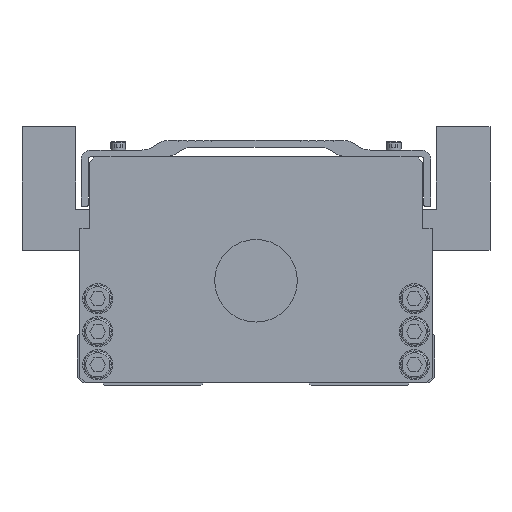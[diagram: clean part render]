
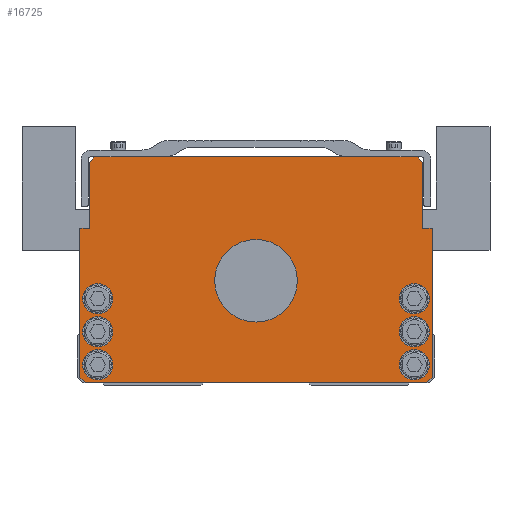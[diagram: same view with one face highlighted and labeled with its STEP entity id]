
A CAD part, front view. The second image highlights one B-rep face of the part: STEP entity #16725.
In plain terms, the highlighted planar face has unit normal (0, -1, 0).
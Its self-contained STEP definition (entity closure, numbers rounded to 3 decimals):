
#7047=VERTEX_POINT('',#20100);
#7113=EDGE_CURVE('',#14135,#14321,#20175,.T.);
#7227=VERTEX_POINT('',#20308);
#7387=EDGE_CURVE('',#8155,#14135,#20484,.T.);
#7409=VERTEX_POINT('',#20507);
#7661=EDGE_CURVE('',#15755,#14817,#20795,.T.);
#7965=EDGE_CURVE('',#9465,#8405,#21138,.T.);
#8155=VERTEX_POINT('',#21352);
#8405=VERTEX_POINT('',#21627);
#8477=VERTEX_POINT('',#21713);
#8529=VERTEX_POINT('',#21773);
#9149=EDGE_CURVE('',#16839,#15673,#22453,.T.);
#9301=EDGE_CURVE('',#9311,#16839,#22623,.T.);
#9311=VERTEX_POINT('',#22633);
#9421=VERTEX_POINT('',#22753);
#9465=VERTEX_POINT('',#22811);
#10401=EDGE_CURVE('',#18663,#15249,#23844,.T.);
#10845=EDGE_CURVE('',#8477,#7227,#24327,.T.);
#11187=EDGE_CURVE('',#12975,#8529,#24710,.T.);
#11321=VERTEX_POINT('',#24857);
#11707=VERTEX_POINT('',#25287);
#12185=EDGE_CURVE('',#14817,#15755,#25828,.T.);
#12597=VERTEX_POINT('',#26280);
#12975=VERTEX_POINT('',#26702);
#13169=EDGE_CURVE('',#15249,#18663,#26921,.T.);
#13711=EDGE_CURVE('',#7227,#8477,#27516,.T.);
#13857=EDGE_CURVE('',#18313,#12975,#27677,.T.);
#13911=EDGE_CURVE('',#11707,#9311,#27741,.T.);
#14115=EDGE_CURVE('',#7409,#12597,#27981,.T.);
#14135=VERTEX_POINT('',#28005);
#14213=EDGE_CURVE('',#18535,#18313,#28090,.T.);
#14321=VERTEX_POINT('',#28208);
#14587=VERTEX_POINT('',#28503);
#14817=VERTEX_POINT('',#28754);
#15215=EDGE_CURVE('',#12597,#7409,#29210,.T.);
#15249=VERTEX_POINT('',#29246);
#15371=EDGE_CURVE('',#17417,#18179,#29376,.T.);
#15673=VERTEX_POINT('',#29706);
#15755=VERTEX_POINT('',#29795);
#15933=EDGE_CURVE('',#8405,#9465,#29987,.T.);
#16025=EDGE_CURVE('',#14321,#11707,#30094,.T.);
#16067=EDGE_CURVE('',#15673,#18535,#30140,.T.);
#16121=EDGE_CURVE('',#14587,#8155,#30196,.T.);
#16649=EDGE_CURVE('',#7047,#17175,#30784,.T.);
#16725=ADVANCED_FACE('',(#30865,#30866,#30867,#30868,#30869,#30870,#30871,#30872),#30873,.T.);
#16839=VERTEX_POINT('',#30997);
#17175=VERTEX_POINT('',#31368);
#17393=EDGE_CURVE('',#18179,#17417,#31621,.T.);
#17417=VERTEX_POINT('',#31647);
#18061=EDGE_CURVE('',#11321,#9421,#32359,.T.);
#18179=VERTEX_POINT('',#32493);
#18313=VERTEX_POINT('',#32644);
#18533=EDGE_CURVE('',#17175,#14587,#32893,.T.);
#18535=VERTEX_POINT('',#32895);
#18613=EDGE_CURVE('',#8529,#7047,#32977,.T.);
#18663=VERTEX_POINT('',#33032);
#18737=EDGE_CURVE('',#9421,#11321,#33110,.T.);
#20100=CARTESIAN_POINT('',(-58.5,0.0,83.0));
#20175=LINE('',#34898,#34899);
#20308=CARTESIAN_POINT('',(52.0,0.0,31.5));
#20484=LINE('',#35318,#35319);
#20507=CARTESIAN_POINT('',(52.0,0.0,7.5));
#20795=CIRCLE('',#35739,5.5);
#21138=CIRCLE('',#36222,5.5);
#21352=CARTESIAN_POINT('',(58.5,0.0,83.0));
#21627=CARTESIAN_POINT('',(-52.0,0.0,7.5));
#21713=CARTESIAN_POINT('',(63.0,0.0,31.5));
#21773=CARTESIAN_POINT('',(-60.5,0.0,81.0));
#22453=LINE('',#38019,#38020);
#22623=LINE('',#38259,#38260);
#22633=CARTESIAN_POINT('',(64.0,0.0,3.0));
#22753=CARTESIAN_POINT('',(-52.0,0.0,19.5));
#22811=CARTESIAN_POINT('',(-63.0,0.0,7.5));
#23844=CIRCLE('',#39947,5.5);
#24327=CIRCLE('',#40650,5.5);
#24710=LINE('',#41198,#41199);
#24857=CARTESIAN_POINT('',(-63.0,0.0,19.5));
#25287=CARTESIAN_POINT('',(64.0,0.0,57.0));
#25828=CIRCLE('',#42783,5.5);
#26280=CARTESIAN_POINT('',(63.0,0.0,7.5));
#26702=CARTESIAN_POINT('',(-60.5,0.0,57.0));
#26921=CIRCLE('',#44292,5.5);
#27516=CIRCLE('',#45100,5.5);
#27677=LINE('',#45326,#45327);
#27741=LINE('',#45415,#45416);
#27981=CIRCLE('',#45733,5.5);
#28005=CARTESIAN_POINT('',(60.5,0.0,81.0));
#28090=LINE('',#45883,#45884);
#28208=CARTESIAN_POINT('',(60.5,0.0,57.0));
#28503=CARTESIAN_POINT('',(33.25,0.0,83.0));
#28754=CARTESIAN_POINT('',(52.0,0.0,19.5));
#29210=CIRCLE('',#47375,5.5);
#29246=CARTESIAN_POINT('',(-63.0,0.0,31.5));
#29376=CIRCLE('',#47616,15.0);
#29706=CARTESIAN_POINT('',(-62.0,0.0,1.0));
#29795=CARTESIAN_POINT('',(63.0,0.0,19.5));
#29987=CIRCLE('',#48443,5.5);
#30094=LINE('',#48611,#48612);
#30140=LINE('',#48674,#48675);
#30196=LINE('',#48752,#48753);
#30784=LINE('',#49566,#49567);
#30865=FACE_BOUND('',#49683,.T.);
#30866=FACE_BOUND('',#49684,.T.);
#30867=FACE_BOUND('',#49685,.T.);
#30868=FACE_BOUND('',#49686,.T.);
#30869=FACE_BOUND('',#49687,.T.);
#30870=FACE_BOUND('',#49688,.T.);
#30871=FACE_BOUND('',#49689,.T.);
#30872=FACE_OUTER_BOUND('',#49690,.T.);
#30873=PLANE('',#49691);
#30997=CARTESIAN_POINT('',(62.0,0.0,1.0));
#31368=CARTESIAN_POINT('',(-33.25,0.0,83.0));
#31621=CIRCLE('',#50716,15.0);
#31647=CARTESIAN_POINT('',(-15.0,0.0,38.0));
#32359=CIRCLE('',#51752,5.5);
#32493=CARTESIAN_POINT('',(15.0,0.0,38.0));
#32644=CARTESIAN_POINT('',(-64.0,0.0,57.0));
#32893=LINE('',#52461,#52462);
#32895=CARTESIAN_POINT('',(-64.0,0.0,3.0));
#32977=LINE('',#52583,#52584);
#33032=CARTESIAN_POINT('',(-52.0,0.0,31.5));
#33110=CIRCLE('',#52771,5.5);
#34898=CARTESIAN_POINT('',(60.5,0.0,57.0));
#34899=VECTOR('',#54639,1.0);
#35318=CARTESIAN_POINT('',(60.5,0.0,81.0));
#35319=VECTOR('',#55004,1.);
#35739=AXIS2_PLACEMENT_3D('',#55391,#55392,#55393);
#36222=AXIS2_PLACEMENT_3D('',#55850,#55851,#55852);
#38019=CARTESIAN_POINT('',(-62.0,0.0,1.0));
#38020=VECTOR('',#57354,1.0);
#38259=CARTESIAN_POINT('',(62.0,0.0,1.0));
#38260=VECTOR('',#57552,1.);
#39947=AXIS2_PLACEMENT_3D('',#58933,#58934,#58935);
#40650=AXIS2_PLACEMENT_3D('',#59465,#59466,#59467);
#41198=CARTESIAN_POINT('',(-60.5,0.0,81.0));
#41199=VECTOR('',#59938,1.0);
#42783=AXIS2_PLACEMENT_3D('',#61267,#61268,#61269);
#44292=AXIS2_PLACEMENT_3D('',#62508,#62509,#62510);
#45100=AXIS2_PLACEMENT_3D('',#63158,#63159,#63160);
#45326=CARTESIAN_POINT('',(-60.5,0.0,57.0));
#45327=VECTOR('',#63354,1.0);
#45415=CARTESIAN_POINT('',(64.0,0.0,3.0));
#45416=VECTOR('',#63408,1.0);
#45733=AXIS2_PLACEMENT_3D('',#63819,#63820,#63821);
#45883=CARTESIAN_POINT('',(-64.0,0.0,57.0));
#45884=VECTOR('',#63948,1.0);
#47375=AXIS2_PLACEMENT_3D('',#65292,#65293,#65294);
#47616=AXIS2_PLACEMENT_3D('',#65444,#65445,#65446);
#48443=AXIS2_PLACEMENT_3D('',#66090,#66091,#66092);
#48611=CARTESIAN_POINT('',(64.0,0.0,57.0));
#48612=VECTOR('',#66197,1.0);
#48674=CARTESIAN_POINT('',(-64.0,0.0,3.0));
#48675=VECTOR('',#66249,1.);
#48752=CARTESIAN_POINT('',(58.5,0.0,83.0));
#48753=VECTOR('',#66286,1.0);
#49566=CARTESIAN_POINT('',(58.5,0.0,83.0));
#49567=VECTOR('',#66967,1.0);
#49683=EDGE_LOOP('',(#67047,#67048));
#49684=EDGE_LOOP('',(#67049,#67050));
#49685=EDGE_LOOP('',(#67051,#67052));
#49686=EDGE_LOOP('',(#67053,#67054));
#49687=EDGE_LOOP('',(#67055,#67056));
#49688=EDGE_LOOP('',(#67057,#67058));
#49689=EDGE_LOOP('',(#67059,#67060));
#49690=EDGE_LOOP('',(#67061,#67062,#67063,#67064,#67065,#67066,#67067,#67068,#67069,#67070,#67071,#67072,#67073,#67074));
#49691=AXIS2_PLACEMENT_3D('',#67075,#67076,#67077);
#50716=AXIS2_PLACEMENT_3D('',#67938,#67939,#67940);
#51752=AXIS2_PLACEMENT_3D('',#68755,#68756,#68757);
#52461=CARTESIAN_POINT('',(58.5,0.0,83.0));
#52462=VECTOR('',#69359,1.0);
#52583=CARTESIAN_POINT('',(-58.5,0.0,83.0));
#52584=VECTOR('',#69433,1.);
#52771=AXIS2_PLACEMENT_3D('',#69555,#69556,#69557);
#54639=DIRECTION('',(-0.0,0.0,-1.0));
#55004=DIRECTION('',(0.707,0.0,-0.707));
#55391=CARTESIAN_POINT('',(57.5,0.0,19.5));
#55392=DIRECTION('',(-0.0,1.0,0.0));
#55393=DIRECTION('',(1.0,0.0,0.0));
#55850=CARTESIAN_POINT('',(-57.5,0.0,7.5));
#55851=DIRECTION('',(-0.0,1.0,0.0));
#55852=DIRECTION('',(1.0,0.0,0.0));
#57354=DIRECTION('',(-1.0,0.0,-0.0));
#57552=DIRECTION('',(-0.707,0.0,-0.707));
#58933=CARTESIAN_POINT('',(-57.5,0.0,31.5));
#58934=DIRECTION('',(-0.0,1.0,0.0));
#58935=DIRECTION('',(1.0,0.0,0.0));
#59465=CARTESIAN_POINT('',(57.5,0.0,31.5));
#59466=DIRECTION('',(-0.0,1.0,0.0));
#59467=DIRECTION('',(1.0,0.0,0.0));
#59938=DIRECTION('',(0.0,0.0,1.0));
#61267=CARTESIAN_POINT('',(57.5,0.0,19.5));
#61268=DIRECTION('',(-0.0,1.0,0.0));
#61269=DIRECTION('',(1.0,0.0,0.0));
#62508=CARTESIAN_POINT('',(-57.5,0.0,31.5));
#62509=DIRECTION('',(-0.0,1.0,0.0));
#62510=DIRECTION('',(1.0,0.0,0.0));
#63158=CARTESIAN_POINT('',(57.5,0.0,31.5));
#63159=DIRECTION('',(-0.0,1.0,0.0));
#63160=DIRECTION('',(1.0,0.0,0.0));
#63354=DIRECTION('',(1.0,0.0,0.0));
#63408=DIRECTION('',(-0.0,0.0,-1.0));
#63819=CARTESIAN_POINT('',(57.5,0.0,7.5));
#63820=DIRECTION('',(-0.0,1.0,0.0));
#63821=DIRECTION('',(1.0,0.0,0.0));
#63948=DIRECTION('',(0.0,0.0,1.0));
#65292=CARTESIAN_POINT('',(57.5,0.0,7.5));
#65293=DIRECTION('',(-0.0,1.0,0.0));
#65294=DIRECTION('',(1.0,0.0,0.0));
#65444=CARTESIAN_POINT('',(0.0,0.0,38.0));
#65445=DIRECTION('',(-0.0,1.0,0.0));
#65446=DIRECTION('',(1.0,0.0,0.0));
#66090=CARTESIAN_POINT('',(-57.5,0.0,7.5));
#66091=DIRECTION('',(-0.0,1.0,0.0));
#66092=DIRECTION('',(1.0,0.0,0.0));
#66197=DIRECTION('',(1.0,0.0,0.0));
#66249=DIRECTION('',(-0.707,0.0,0.707));
#66286=DIRECTION('',(1.0,0.0,0.0));
#66967=DIRECTION('',(1.0,0.0,0.0));
#67047=ORIENTED_EDGE('',*,*,#17393,.T.);
#67048=ORIENTED_EDGE('',*,*,#15371,.T.);
#67049=ORIENTED_EDGE('',*,*,#10845,.T.);
#67050=ORIENTED_EDGE('',*,*,#13711,.T.);
#67051=ORIENTED_EDGE('',*,*,#7661,.T.);
#67052=ORIENTED_EDGE('',*,*,#12185,.T.);
#67053=ORIENTED_EDGE('',*,*,#15215,.T.);
#67054=ORIENTED_EDGE('',*,*,#14115,.T.);
#67055=ORIENTED_EDGE('',*,*,#10401,.T.);
#67056=ORIENTED_EDGE('',*,*,#13169,.T.);
#67057=ORIENTED_EDGE('',*,*,#18737,.T.);
#67058=ORIENTED_EDGE('',*,*,#18061,.T.);
#67059=ORIENTED_EDGE('',*,*,#15933,.T.);
#67060=ORIENTED_EDGE('',*,*,#7965,.T.);
#67061=ORIENTED_EDGE('',*,*,#16067,.F.);
#67062=ORIENTED_EDGE('',*,*,#9149,.F.);
#67063=ORIENTED_EDGE('',*,*,#9301,.F.);
#67064=ORIENTED_EDGE('',*,*,#13911,.F.);
#67065=ORIENTED_EDGE('',*,*,#16025,.F.);
#67066=ORIENTED_EDGE('',*,*,#7113,.F.);
#67067=ORIENTED_EDGE('',*,*,#7387,.F.);
#67068=ORIENTED_EDGE('',*,*,#16121,.F.);
#67069=ORIENTED_EDGE('',*,*,#18533,.F.);
#67070=ORIENTED_EDGE('',*,*,#16649,.F.);
#67071=ORIENTED_EDGE('',*,*,#18613,.F.);
#67072=ORIENTED_EDGE('',*,*,#11187,.F.);
#67073=ORIENTED_EDGE('',*,*,#13857,.F.);
#67074=ORIENTED_EDGE('',*,*,#14213,.F.);
#67075=CARTESIAN_POINT('',(0.,0.0,41.562));
#67076=DIRECTION('',(0.0,-1.0,0.0));
#67077=DIRECTION('',(1.0,0.0,0.0));
#67938=CARTESIAN_POINT('',(0.0,0.0,38.0));
#67939=DIRECTION('',(-0.0,1.0,0.0));
#67940=DIRECTION('',(1.0,0.0,0.0));
#68755=CARTESIAN_POINT('',(-57.5,0.0,19.5));
#68756=DIRECTION('',(-0.0,1.0,0.0));
#68757=DIRECTION('',(1.0,0.0,0.0));
#69359=DIRECTION('',(1.0,0.0,0.0));
#69433=DIRECTION('',(0.707,0.0,0.707));
#69555=CARTESIAN_POINT('',(-57.5,0.0,19.5));
#69556=DIRECTION('',(-0.0,1.0,0.0));
#69557=DIRECTION('',(1.0,0.0,0.0));
